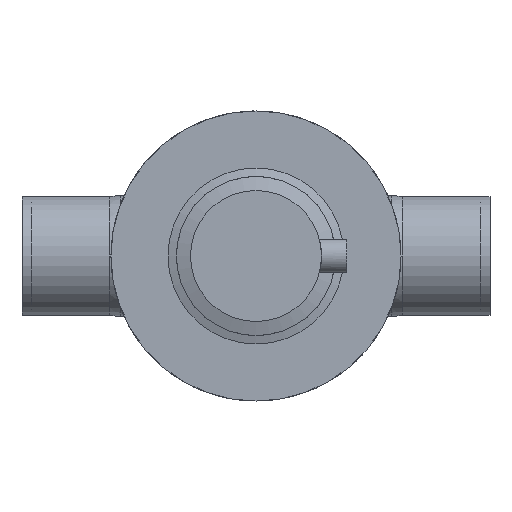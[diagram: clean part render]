
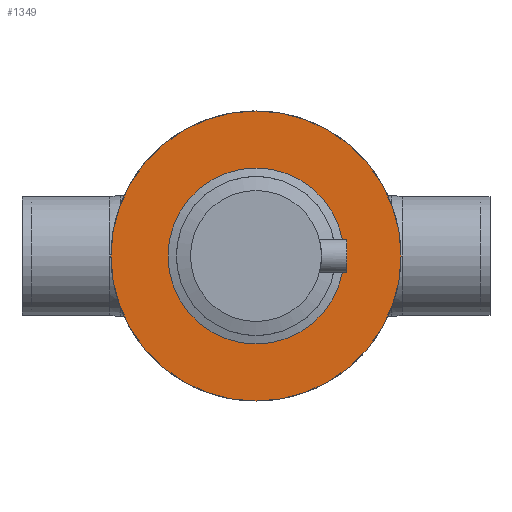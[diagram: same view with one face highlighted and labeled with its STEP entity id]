
A CAD part, front view. The second image highlights one B-rep face of the part: STEP entity #1349.
In plain terms, the highlighted planar face has unit normal (0, -1, 0).
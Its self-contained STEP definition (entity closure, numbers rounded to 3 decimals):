
#97=FACE_BOUND('',#312,.T.);
#124=PLANE('',#1620);
#202=FACE_OUTER_BOUND('',#311,.T.);
#311=EDGE_LOOP('',(#1148,#1149));
#312=EDGE_LOOP('',(#1150,#1151));
#521=CIRCLE('',#1618,42.5);
#522=CIRCLE('',#1619,42.5);
#523=CIRCLE('',#1621,77.5);
#524=CIRCLE('',#1622,77.5);
#660=VERTEX_POINT('',#2571);
#661=VERTEX_POINT('',#2573);
#662=VERTEX_POINT('',#2577);
#663=VERTEX_POINT('',#2578);
#831=EDGE_CURVE('',#661,#660,#521,.T.);
#832=EDGE_CURVE('',#660,#661,#522,.T.);
#833=EDGE_CURVE('',#662,#663,#523,.T.);
#834=EDGE_CURVE('',#663,#662,#524,.T.);
#1148=ORIENTED_EDGE('',*,*,#833,.F.);
#1149=ORIENTED_EDGE('',*,*,#834,.F.);
#1150=ORIENTED_EDGE('',*,*,#831,.T.);
#1151=ORIENTED_EDGE('',*,*,#832,.T.);
#1349=ADVANCED_FACE('',(#202,#97),#124,.F.);
#1618=AXIS2_PLACEMENT_3D('',#2574,#2045,#2046);
#1619=AXIS2_PLACEMENT_3D('',#2575,#2047,#2048);
#1620=AXIS2_PLACEMENT_3D('',#2576,#2049,#2050);
#1621=AXIS2_PLACEMENT_3D('',#2579,#2051,#2052);
#1622=AXIS2_PLACEMENT_3D('',#2580,#2053,#2054);
#2045=DIRECTION('center_axis',(0.,1.,0.));
#2046=DIRECTION('ref_axis',(1.,0.,0.));
#2047=DIRECTION('center_axis',(0.,1.,0.));
#2048=DIRECTION('ref_axis',(1.,0.,0.));
#2049=DIRECTION('center_axis',(0.,1.,0.));
#2050=DIRECTION('ref_axis',(0.,0.,1.));
#2051=DIRECTION('center_axis',(0.,1.,0.));
#2052=DIRECTION('ref_axis',(-1.,0.,0.));
#2053=DIRECTION('center_axis',(0.,1.,0.));
#2054=DIRECTION('ref_axis',(-1.,0.,0.));
#2571=CARTESIAN_POINT('',(42.5,-14.9,0.));
#2573=CARTESIAN_POINT('',(-42.5,-14.9,0.));
#2574=CARTESIAN_POINT('Origin',(0.,-14.9,0.));
#2575=CARTESIAN_POINT('Origin',(0.,-14.9,0.));
#2576=CARTESIAN_POINT('Origin',(-42.5,-14.9,0.));
#2577=CARTESIAN_POINT('',(-77.5,-14.9,0.));
#2578=CARTESIAN_POINT('',(77.5,-14.9,0.));
#2579=CARTESIAN_POINT('Origin',(0.,-14.9,0.));
#2580=CARTESIAN_POINT('Origin',(0.,-14.9,0.));
